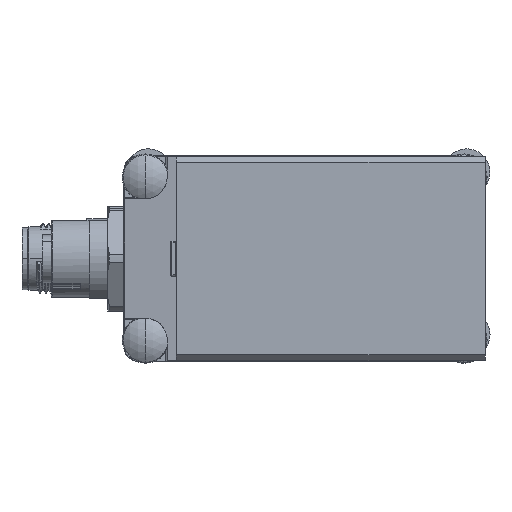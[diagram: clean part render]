
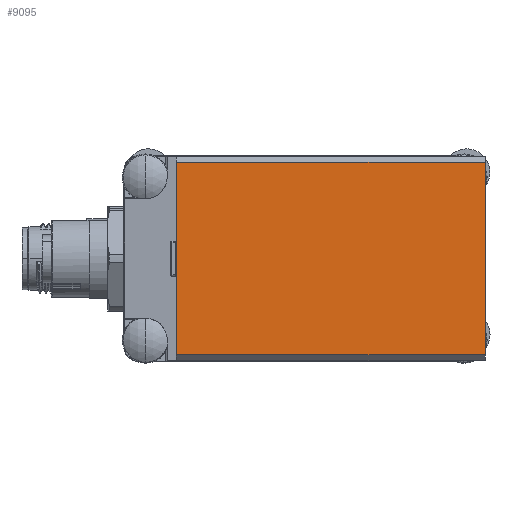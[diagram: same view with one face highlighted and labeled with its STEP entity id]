
A CAD part, front view. The second image highlights one B-rep face of the part: STEP entity #9095.
In plain terms, the highlighted planar face has unit normal (0, -1, 0).
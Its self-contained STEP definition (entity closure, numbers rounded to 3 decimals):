
#9095 = ADVANCED_FACE ( 'NONE', ( #69984 ), #73997, .F. ) ;
#20501 = EDGE_LOOP ( 'NONE', ( #29501, #29502, #29503, #29504 ) ) ;
#29501 = ORIENTED_EDGE ( 'NONE', *, *, #48930, .T. ) ;
#29502 = ORIENTED_EDGE ( 'NONE', *, *, #48929, .T. ) ;
#29503 = ORIENTED_EDGE ( 'NONE', *, *, #48928, .F. ) ;
#29504 = ORIENTED_EDGE ( 'NONE', *, *, #48927, .T. ) ;
#48927 = EDGE_CURVE ( 'NONE', #86139, #86130, #84396, .T. ) ;
#48928 = EDGE_CURVE ( 'NONE', #86139, #86140, #84404, .T. ) ;
#48929 = EDGE_CURVE ( 'NONE', #86137, #86140, #84407, .T. ) ;
#48930 = EDGE_CURVE ( 'NONE', #86130, #86137, #84409, .T. ) ;
#50993 = DIRECTION ( 'NONE',  ( -1., 0., 0. ) ) ;
#51017 = CARTESIAN_POINT ( 'NONE',  ( 0., -17.5, 17.5 ) ) ;
#51022 = CARTESIAN_POINT ( 'NONE',  ( 0., -17.5, 16.5 ) ) ;
#51034 = DIRECTION ( 'NONE',  ( 0., 0., -1. ) ) ;
#51038 = CARTESIAN_POINT ( 'NONE',  ( 0., -17.5, -16.5 ) ) ;
#51042 = DIRECTION ( 'NONE',  ( 1., 0., 0. ) ) ;
#51045 = CARTESIAN_POINT ( 'NONE',  ( -53., -17.5, 17.5 ) ) ;
#51050 = DIRECTION ( 'NONE',  ( 0., 0., -1. ) ) ;
#68856 = AXIS2_PLACEMENT_3D ( 'NONE', #73994, #73986, #74001 ) ;
#69984 = FACE_OUTER_BOUND ( 'NONE', #20501, .T. ) ;
#73986 = DIRECTION ( 'NONE',  ( 0., 1., 0. ) ) ;
#73994 = CARTESIAN_POINT ( 'NONE',  ( 0., -17.5, 17.5 ) ) ;
#73997 = PLANE ( 'NONE',  #68856 ) ;
#74001 = DIRECTION ( 'NONE',  ( 0., 0., 1. ) ) ;
#84122 = CARTESIAN_POINT ( 'NONE',  ( -53., -17.5, 16.5 ) ) ;
#84128 = CARTESIAN_POINT ( 'NONE',  ( -53., -17.5, -16.5 ) ) ;
#84131 = CARTESIAN_POINT ( 'NONE',  ( 0., -17.5, -16.5 ) ) ;
#84136 = CARTESIAN_POINT ( 'NONE',  ( 0., -17.5, 16.5 ) ) ;
#84396 = LINE ( 'NONE', #51022, #84406 ) ;
#84404 = LINE ( 'NONE', #51017, #84408 ) ;
#84406 = VECTOR ( 'NONE', #50993, 1000. ) ;
#84407 = LINE ( 'NONE', #51038, #84410 ) ;
#84408 = VECTOR ( 'NONE', #51034, 1000. ) ;
#84409 = LINE ( 'NONE', #51045, #84412 ) ;
#84410 = VECTOR ( 'NONE', #51042, 1000. ) ;
#84412 = VECTOR ( 'NONE', #51050, 1000. ) ;
#86130 = VERTEX_POINT ( 'NONE', #84122 ) ;
#86137 = VERTEX_POINT ( 'NONE', #84128 ) ;
#86139 = VERTEX_POINT ( 'NONE', #84136 ) ;
#86140 = VERTEX_POINT ( 'NONE', #84131 ) ;
